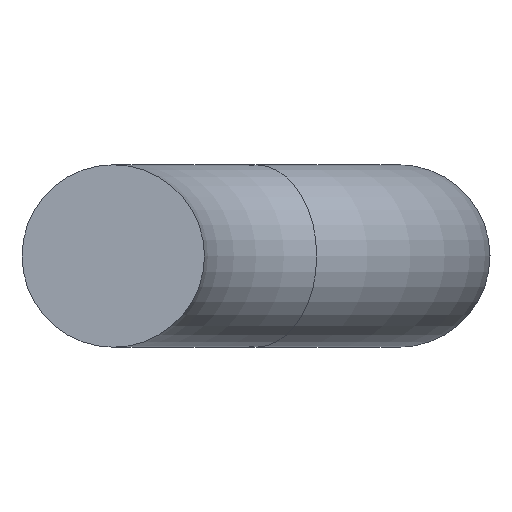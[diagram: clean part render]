
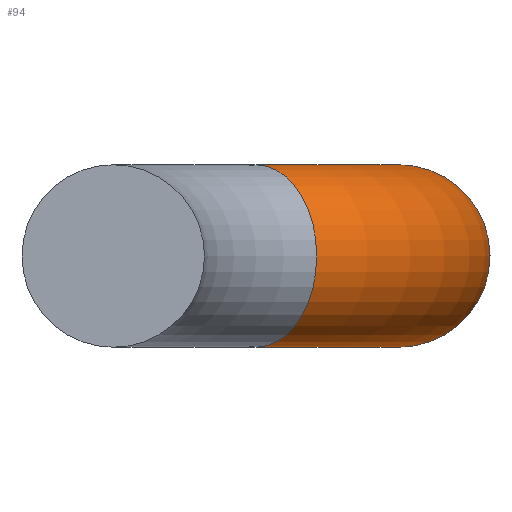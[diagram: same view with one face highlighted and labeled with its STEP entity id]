
A CAD part, left-side view. The second image highlights one B-rep face of the part: STEP entity #94.
In plain terms, the highlighted toroidal (fillet/blend) face has major radius 3.856 mm and minor radius 0.826 mm.
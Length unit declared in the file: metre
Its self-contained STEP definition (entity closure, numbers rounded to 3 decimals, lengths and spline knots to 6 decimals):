
#25=TOROIDAL_SURFACE('',#130,0.003856,0.000826);
#29=ORIENTED_EDGE('',*,*,#42,.F.);
#30=ORIENTED_EDGE('',*,*,#43,.T.);
#42=EDGE_CURVE('',#49,#49,#56,.T.);
#43=EDGE_CURVE('',#50,#50,#57,.T.);
#49=VERTEX_POINT('',#179);
#50=VERTEX_POINT('',#182);
#56=CIRCLE('',#129,0.000826);
#57=CIRCLE('',#131,0.000826);
#64=EDGE_LOOP('',(#29));
#65=EDGE_LOOP('',(#30));
#78=FACE_BOUND('',#64,.T.);
#79=FACE_BOUND('',#65,.T.);
#94=ADVANCED_FACE('',(#78,#79),#25,.T.);
#129=AXIS2_PLACEMENT_3D('',#178,#148,#149);
#130=AXIS2_PLACEMENT_3D('',#180,#150,#151);
#131=AXIS2_PLACEMENT_3D('',#181,#152,#153);
#148=DIRECTION('',(1.,0.,0.));
#149=DIRECTION('',(0.,0.,-1.));
#150=DIRECTION('',(0.,0.,1.));
#151=DIRECTION('',(1.,0.,0.));
#152=DIRECTION('',(0.665,-0.747,0.));
#153=DIRECTION('',(0.,0.,-1.));
#178=CARTESIAN_POINT('',(0.00957,-0.023881,-0.001727));
#179=CARTESIAN_POINT('',(0.00957,-0.023881,-0.002553));
#180=CARTESIAN_POINT('',(0.00957,-0.020025,-0.001727));
#181=CARTESIAN_POINT('',(0.00669,-0.02259,-0.001727));
#182=CARTESIAN_POINT('',(0.00669,-0.02259,-0.002553));
